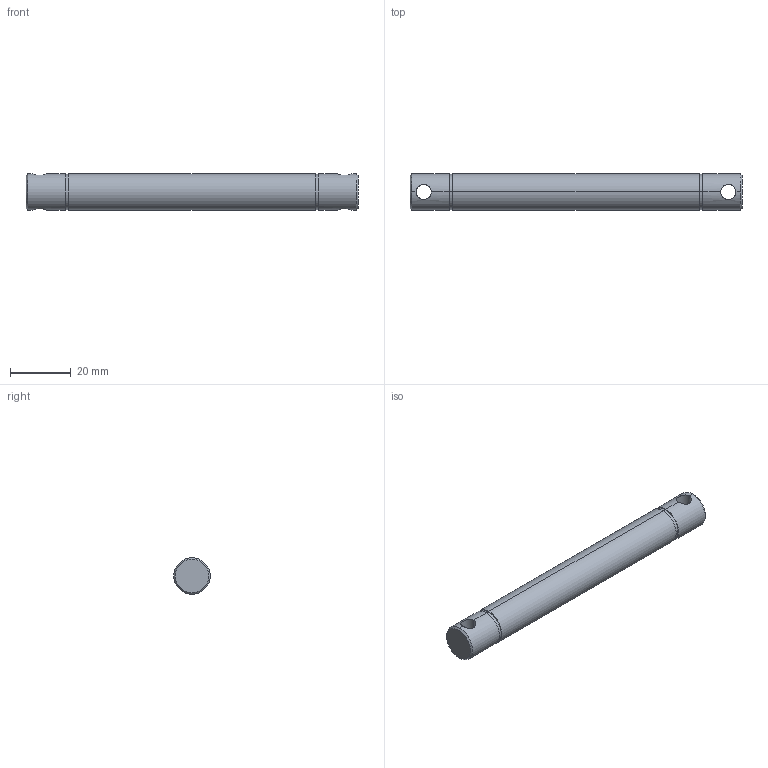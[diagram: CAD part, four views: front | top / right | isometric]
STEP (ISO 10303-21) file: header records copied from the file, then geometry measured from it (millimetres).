
FILE_DESCRIPTION (( 'STEP AP214' ), '1' );
FILE_NAME ('084.030.105.STEP', '2021-02-05T15:32:23', ( '' ), ( '' ), 'SwSTEP 2.0', 'SolidWorks 2018', '' );
FILE_SCHEMA (( 'AUTOMOTIVE_DESIGN' ));
Length unit declared in the file: millimetre
Products named in the file (1): 084.030.105
Bounding box: 109 x 12 x 12 mm (x, y, z)
Volume: 11837.4 mm3; surface area: 4625.8 mm2
Topology: 1 solids, 1 shells, 24 faces, 54 edges, 32 vertices
Faces by surface type: cylinder 14, plane 6, cone 4
Entity records: 976 total; most frequent: CARTESIAN_POINT 351, DIRECTION 120, ORIENTED_EDGE 108, EDGE_CURVE 54, AXIS2_PLACEMENT_3D 49, VERTEX_POINT 32, EDGE_LOOP 28, FACE_OUTER_BOUND 24
